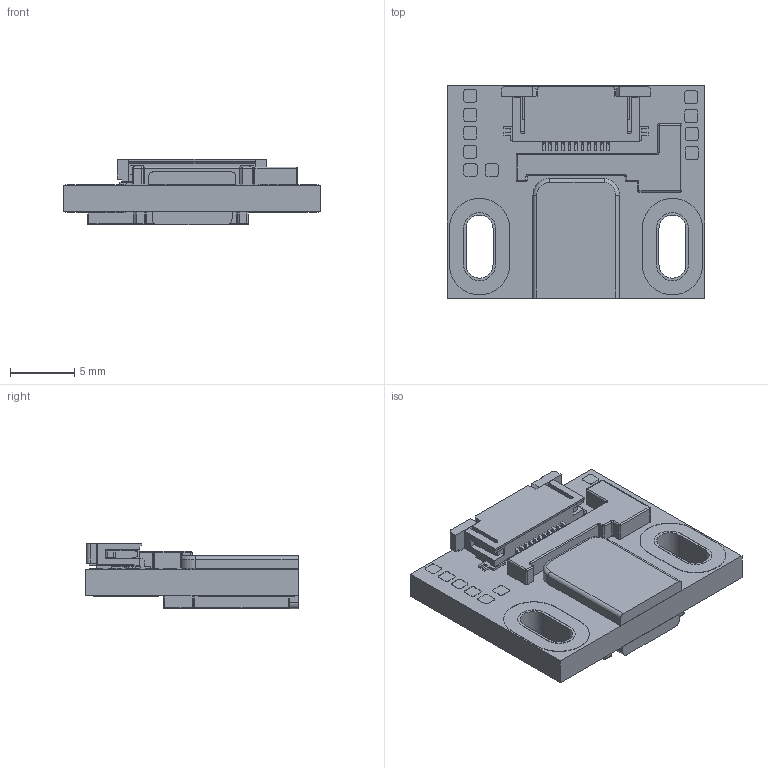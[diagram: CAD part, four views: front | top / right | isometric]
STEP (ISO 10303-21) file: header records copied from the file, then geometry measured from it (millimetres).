
FILE_DESCRIPTION (( 'STEP AP214' ), '1' );
FILE_NAME ('RLC2ICAxxxx13Axx.STEP', '2022-07-15T05:36:53', ( '' ), ( '' ), 'SwSTEP 2.0', 'SolidWorks 2020', '' );
FILE_SCHEMA (( 'AUTOMOTIVE_DESIGN' ));
Length unit declared in the file: millimetre
Products named in the file (1): RLC2ICAxxxx13Axx
Bounding box: 20 x 16.5 x 5.1 mm (x, y, z)
Volume: 915.6 mm3; surface area: 1757.5 mm2
Topology: 19 solids, 19 shells, 970 faces, 2734 edges, 1777 vertices
Faces by surface type: plane 821, cylinder 123, sphere 15, torus 11
Entity records: 40594 total; most frequent: CARTESIAN_POINT 5972, ORIENTED_EDGE 5438, DIRECTION 4602, EDGE_CURVE 2719, LINE 2310, VECTOR 2310, VERTEX_POINT 1777, AXIS2_PLACEMENT_3D 1146
